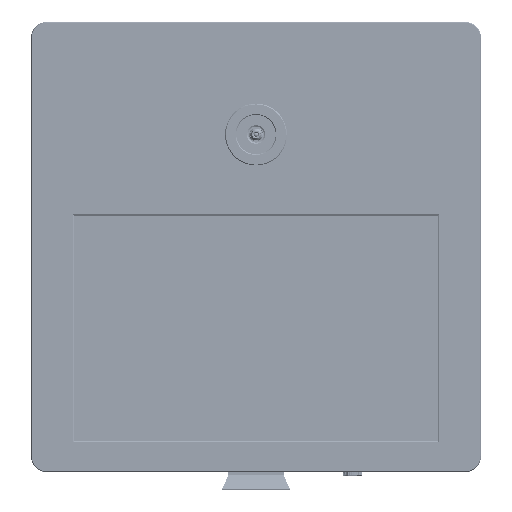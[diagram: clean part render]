
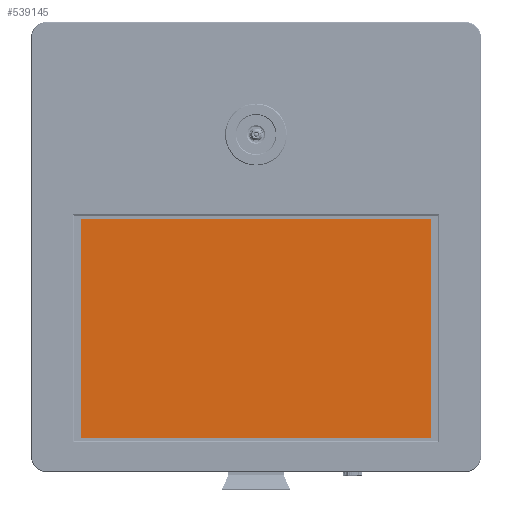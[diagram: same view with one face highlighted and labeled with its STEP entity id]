
A CAD part, top view. The second image highlights one B-rep face of the part: STEP entity #539145.
In plain terms, the highlighted planar face has unit normal (0, 0, 1).
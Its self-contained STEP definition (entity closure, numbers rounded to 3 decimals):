
#17375 = DIRECTION ( 'NONE',  ( 1., 0., 0. ) ) ;
#33545 = CARTESIAN_POINT ( 'NONE',  ( 0., 0., 4.75 ) ) ;
#61300 = EDGE_CURVE ( 'NONE', #512263, #737656, #373521, .T. ) ;
#135315 = CARTESIAN_POINT ( 'NONE',  ( 67.98, 108.59, 4.75 ) ) ;
#150411 = VECTOR ( 'NONE', #243968, 1000. ) ;
#155765 = ORIENTED_EDGE ( 'NONE', *, *, #159496, .F. ) ;
#159496 = EDGE_CURVE ( 'NONE', #737656, #744607, #736838, .T. ) ;
#164462 = LINE ( 'NONE', #600159, #150411 ) ;
#164876 = PLANE ( 'NONE',  #714075 ) ;
#165054 = CARTESIAN_POINT ( 'NONE',  ( 67.98, 108.59, 4.75 ) ) ;
#229586 = CARTESIAN_POINT ( 'NONE',  ( -67.98, 108.59, 4.75 ) ) ;
#236332 = DIRECTION ( 'NONE',  ( -1., 0., 0. ) ) ;
#243968 = DIRECTION ( 'NONE',  ( 0., 1., 0. ) ) ;
#373521 = LINE ( 'NONE', #659387, #575141 ) ;
#376021 = DIRECTION ( 'NONE',  ( 0., -1., 0. ) ) ;
#380464 = DIRECTION ( 'NONE',  ( 0., -1., 0. ) ) ;
#470108 = ORIENTED_EDGE ( 'NONE', *, *, #535976, .F. ) ;
#478141 = VECTOR ( 'NONE', #236332, 1000. ) ;
#491340 = ORIENTED_EDGE ( 'NONE', *, *, #562959, .F. ) ;
#512263 = VERTEX_POINT ( 'NONE', #229586 ) ;
#524002 = EDGE_LOOP ( 'NONE', ( #470108, #491340, #155765, #699543 ) ) ;
#535976 = EDGE_CURVE ( 'NONE', #842712, #512263, #164462, .T. ) ;
#539145 = ADVANCED_FACE ( 'NONE', ( #745915 ), #164876, .F. ) ;
#562959 = EDGE_CURVE ( 'NONE', #744607, #842712, #855375, .T. ) ;
#575141 = VECTOR ( 'NONE', #17375, 1000. ) ;
#600159 = CARTESIAN_POINT ( 'NONE',  ( -67.98, -108.59, 4.75 ) ) ;
#609507 = CARTESIAN_POINT ( 'NONE',  ( -67.98, -108.59, 4.75 ) ) ;
#639485 = VECTOR ( 'NONE', #376021, 1000. ) ;
#655368 = CARTESIAN_POINT ( 'NONE',  ( 67.98, -108.59, 4.75 ) ) ;
#659387 = CARTESIAN_POINT ( 'NONE',  ( -67.98, 108.59, 4.75 ) ) ;
#666293 = DIRECTION ( 'NONE',  ( 0., 0., -1. ) ) ;
#699543 = ORIENTED_EDGE ( 'NONE', *, *, #61300, .F. ) ;
#714075 = AXIS2_PLACEMENT_3D ( 'NONE', #33545, #666293, #380464 ) ;
#736838 = LINE ( 'NONE', #165054, #639485 ) ;
#737656 = VERTEX_POINT ( 'NONE', #135315 ) ;
#744607 = VERTEX_POINT ( 'NONE', #655368 ) ;
#745915 = FACE_OUTER_BOUND ( 'NONE', #524002, .T. ) ;
#842712 = VERTEX_POINT ( 'NONE', #609507 ) ;
#846172 = CARTESIAN_POINT ( 'NONE',  ( 67.98, -108.59, 4.75 ) ) ;
#855375 = LINE ( 'NONE', #846172, #478141 ) ;
